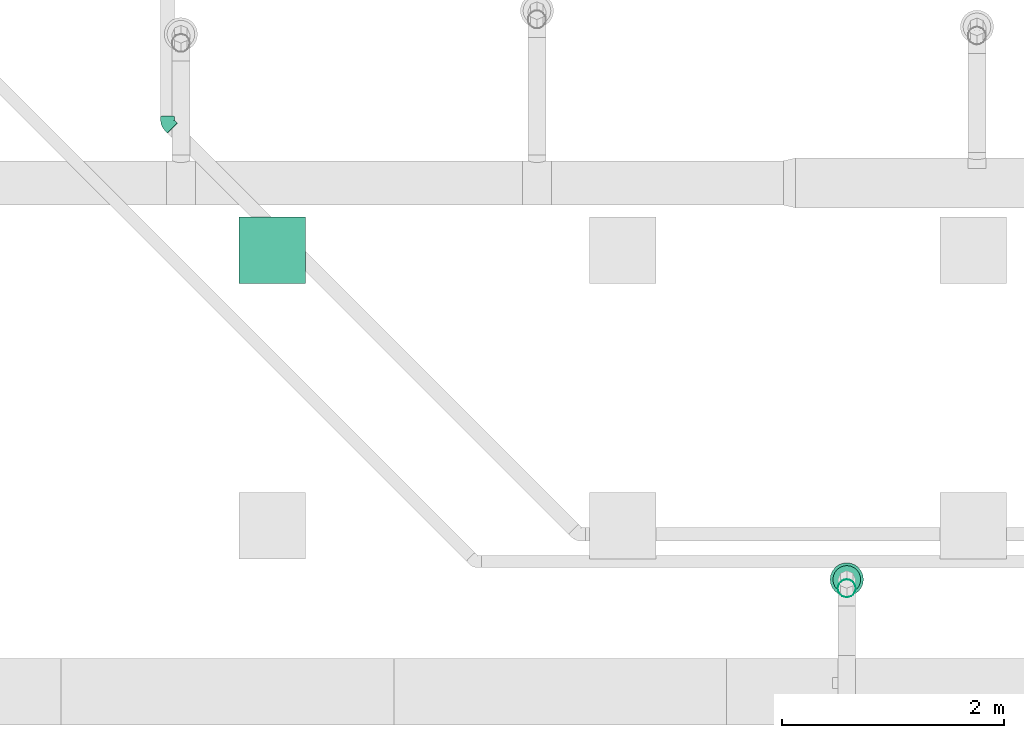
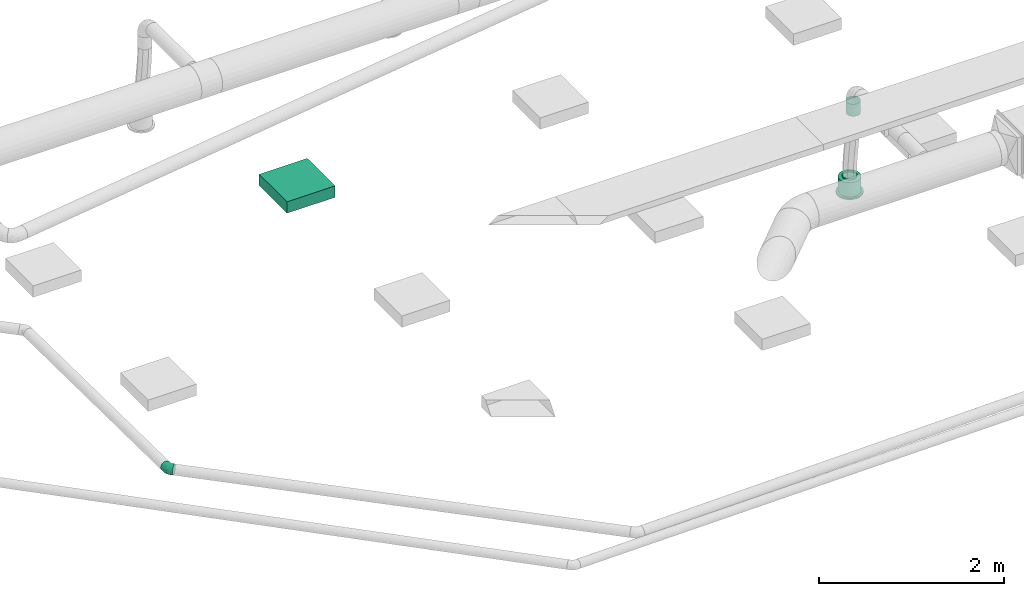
# One storey, part 150 of 374: 1 distribution element, 1 flow fitting, 1 flow segment, 1 flow terminal.
"""IFC2X3 building model written with IfcOpenShell, lengths in metres."""

from ifc_helpers import new_model, si_unit, direction, frame, frame_2d, origin, place, context, subcontext, project, spatial, rectangle, extrude, open_shell, surface_model, source, transform, mapped, element, save


model = new_model("IFC2X3")

# Units and contexts
model_context = context("Model", 3, precision=1e-05, world=origin(), true_north=direction((-0.4480736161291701, 0.8939966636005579)))
body_context = subcontext(model_context, "Body", "Model", "MODEL_VIEW")
ifc_project = project(units=[si_unit("LENGTHUNIT", "METRE"), si_unit("AREAUNIT", "SQUARE_METRE"), si_unit("VOLUMEUNIT", "CUBIC_METRE"), si_unit("PLANEANGLEUNIT", "RADIAN"), si_unit("THERMODYNAMICTEMPERATUREUNIT", "KELVIN"), si_unit("MASSUNIT", "GRAM", prefix="KILO"), si_unit("TIMEUNIT", "SECOND")], contexts=[model_context])

# Site, building, storey
site_placement = place(None, origin())
site = spatial("IfcSite", under=ifc_project, at=site_placement, Name="Site 1", CompositionType="ELEMENT")
building_placement = place(site_placement, origin())
building = spatial("IfcBuilding", under=site, at=building_placement, Name="Undefined", CompositionType="ELEMENT")
storey_placement = place(building_placement, origin())
storey = spatial("IfcBuildingStorey", under=building, at=storey_placement, Name="Rez de chauss\x8ee", CompositionType="ELEMENT", Elevation=0.0)

# Flow terminal
shared_shape_1 = source(origin(), body_context, "Body", "SurfaceModel", [
    surface_model("IfcFaceBasedSurfaceModel", [(0.0, 0.0, 0.0), (0.03915785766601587, 0.0, 0.0), (0.03915785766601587, 0.020000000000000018, 0.0), (3.552713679e-15, 0.020000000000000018, 0.0), (0.07698144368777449, 0.0, -0.010134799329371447), (0.07698144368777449, 0.020000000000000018, -0.010134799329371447), (0.11089314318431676, 0.0, -0.02971372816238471), (0.11089314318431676, 0.020000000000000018, -0.02971372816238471), (0.13858192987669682, 0.0, -0.05740251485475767), (0.13858192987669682, 0.020000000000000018, -0.05740251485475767), (0.15816085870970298, 0.0, -0.09131421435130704), (0.15816085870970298, 0.020000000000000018, -0.09131421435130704), (0.16829565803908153, 0.0, -0.12913780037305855), (0.16829565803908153, 0.020000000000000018, -0.12913780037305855), (0.16829565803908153, 0.0, -0.16829565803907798), (0.16829565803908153, 0.020000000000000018, -0.16829565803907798), (0.15816085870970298, 0.0, -0.20611924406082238), (0.15816085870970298, 0.020000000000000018, -0.20611924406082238), (0.13858192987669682, 0.0, -0.24003094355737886), (0.13858192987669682, 0.020000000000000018, -0.24003094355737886), (0.11089314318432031, 0.0, -0.2677197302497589), (0.11089314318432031, 0.020000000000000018, -0.2677197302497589), (0.07698144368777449, 0.0, -0.2872986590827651), (0.07698144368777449, 0.020000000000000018, -0.2872986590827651), (0.039157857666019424, 0.0, -0.29743345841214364), (0.039157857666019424, 0.020000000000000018, -0.29743345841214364), (3.552713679e-15, 0.0, -0.29743345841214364), (3.552713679e-15, 0.020000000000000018, -0.29743345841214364), (-0.03782358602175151, 0.0, -0.2872986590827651), (-0.03782358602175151, 0.020000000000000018, -0.2872986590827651), (-0.07173528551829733, 0.0, -0.2677197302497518), (-0.07173528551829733, 0.020000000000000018, -0.2677197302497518), (-0.0994240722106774, 0.0, -0.24003094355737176), (-0.0994240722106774, 0.020000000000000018, -0.24003094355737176), (-0.11900300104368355, 0.0, -0.2061192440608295), (-0.11900300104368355, 0.020000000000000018, -0.2061192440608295), (-0.1291378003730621, 0.0, -0.16829565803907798), (-0.1291378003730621, 0.020000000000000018, -0.16829565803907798), (-0.1291378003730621, 0.0, -0.12913780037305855), (-0.1291378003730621, 0.020000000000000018, -0.12913780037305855), (-0.11900300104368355, 0.0, -0.09131421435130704), (-0.11900300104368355, 0.020000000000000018, -0.09131421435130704), (-0.0994240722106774, 0.0, -0.05740251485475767), (-0.0994240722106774, 0.020000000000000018, -0.05740251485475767), (-0.07173528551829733, 0.0, -0.029713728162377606), (-0.07173528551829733, 0.020000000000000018, -0.029713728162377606), (-0.03782358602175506, 0.0, -0.010134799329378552), (-0.03782358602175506, 0.020000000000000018, -0.010134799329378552), (0.019578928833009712, 0.0, -0.14871672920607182), (0.019578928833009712, 0.020000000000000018, -0.14871672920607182), (0.003263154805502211, 0.020000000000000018, -0.02478612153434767), (0.035894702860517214, 0.020000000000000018, -0.02478612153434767), (0.035894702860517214, 0.20999999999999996, -0.02478612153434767), (0.003263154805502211, 0.20999999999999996, -0.02478612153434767), (0.06741435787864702, 0.020000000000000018, -0.033231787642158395), (0.06741435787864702, 0.20999999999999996, -0.033231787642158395), (0.0956741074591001, 0.020000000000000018, -0.04954756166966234), (0.0956741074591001, 0.20999999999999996, -0.04954756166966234), (0.11874809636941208, 0.020000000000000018, -0.07262155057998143), (0.11874809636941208, 0.20999999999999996, -0.07262155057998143), (0.13506387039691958, 0.020000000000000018, -0.10088130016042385), (0.13506387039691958, 0.20999999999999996, -0.10088130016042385), (0.1435095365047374, 0.020000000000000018, -0.13240095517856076), (0.1435095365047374, 0.20999999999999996, -0.13240095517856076), (0.1435095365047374, 0.020000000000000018, -0.16503250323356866), (0.1435095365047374, 0.20999999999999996, -0.16503250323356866), (0.13506387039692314, 0.020000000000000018, -0.19655215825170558), (0.13506387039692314, 0.20999999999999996, -0.19655215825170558), (0.11874809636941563, 0.020000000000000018, -0.2248119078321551), (0.11874809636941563, 0.20999999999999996, -0.2248119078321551), (0.09567410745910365, 0.020000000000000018, -0.24788589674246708), (0.09567410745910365, 0.20999999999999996, -0.24788589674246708), (0.06741435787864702, 0.020000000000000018, -0.26420167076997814), (0.06741435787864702, 0.20999999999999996, -0.26420167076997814), (0.035894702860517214, 0.020000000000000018, -0.27264733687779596), (0.035894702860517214, 0.20999999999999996, -0.27264733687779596), (0.0032631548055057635, 0.020000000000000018, -0.27264733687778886), (0.0032631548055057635, 0.20999999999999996, -0.27264733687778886), (-0.028256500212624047, 0.020000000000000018, -0.26420167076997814), (-0.028256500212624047, 0.20999999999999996, -0.26420167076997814), (-0.05651624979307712, 0.020000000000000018, -0.2478858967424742), (-0.05651624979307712, 0.20999999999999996, -0.2478858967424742), (-0.07959023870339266, 0.020000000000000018, -0.2248119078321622), (-0.07959023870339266, 0.20999999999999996, -0.2248119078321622), (-0.09590601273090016, 0.020000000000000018, -0.19655215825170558), (-0.09590601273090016, 0.20999999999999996, -0.19655215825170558), (-0.10435167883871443, 0.020000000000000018, -0.16503250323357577), (-0.10435167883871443, 0.20999999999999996, -0.16503250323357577), (-0.10435167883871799, 0.020000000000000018, -0.13240095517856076), (-0.10435167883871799, 0.20999999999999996, -0.13240095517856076), (-0.09590601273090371, 0.020000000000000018, -0.10088130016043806), (-0.09590601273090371, 0.20999999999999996, -0.10088130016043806), (-0.07959023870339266, 0.020000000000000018, -0.07262155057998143), (-0.07959023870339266, 0.20999999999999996, -0.07262155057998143), (-0.056516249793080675, 0.020000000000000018, -0.04954756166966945), (-0.056516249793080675, 0.20999999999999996, -0.04954756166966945), (-0.028256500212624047, 0.020000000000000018, -0.033231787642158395), (-0.028256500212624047, 0.20999999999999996, -0.033231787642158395), (0.019578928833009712, 0.20999999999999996, -0.14871672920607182), (0.009136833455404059, 0.20999999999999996, -0.06940114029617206), (0.030021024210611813, 0.20999999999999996, -0.06940114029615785), (0.030021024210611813, 0.22999999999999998, -0.06940114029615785), (0.009136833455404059, 0.22999999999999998, -0.06940114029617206), (0.05019360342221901, 0.20999999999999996, -0.07480636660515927), (0.05019360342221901, 0.22999999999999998, -0.07480636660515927), (0.06827984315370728, 0.20999999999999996, -0.08524846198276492), (0.06827984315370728, 0.22999999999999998, -0.08524846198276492), (0.0830471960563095, 0.20999999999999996, -0.10001581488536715), (0.0830471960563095, 0.22999999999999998, -0.10001581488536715), (0.0934892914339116, 0.20999999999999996, -0.11810205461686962), (0.0934892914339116, 0.22999999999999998, -0.11810205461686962), (0.09889451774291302, 0.20999999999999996, -0.13827463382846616), (0.09889451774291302, 0.22999999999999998, -0.13827463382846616), (0.09889451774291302, 0.20999999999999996, -0.15915882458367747), (0.09889451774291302, 0.22999999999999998, -0.15915882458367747), (0.09348929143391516, 0.20999999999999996, -0.179331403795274), (0.09348929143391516, 0.22999999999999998, -0.179331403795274), (0.0830471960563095, 0.20999999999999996, -0.19741764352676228), (0.0830471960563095, 0.22999999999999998, -0.19741764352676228), (0.06827984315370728, 0.20999999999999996, -0.2121849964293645), (0.06827984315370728, 0.22999999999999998, -0.2121849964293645), (0.05019360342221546, 0.20999999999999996, -0.22262709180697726), (0.05019360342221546, 0.22999999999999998, -0.22262709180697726), (0.030021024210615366, 0.20999999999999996, -0.22803231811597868), (0.030021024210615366, 0.22999999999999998, -0.22803231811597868), (0.009136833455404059, 0.20999999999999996, -0.22803231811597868), (0.009136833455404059, 0.22999999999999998, -0.22803231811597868), (-0.011035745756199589, 0.20999999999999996, -0.22262709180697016), (-0.011035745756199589, 0.22999999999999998, -0.22262709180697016), (-0.0291219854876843, 0.20999999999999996, -0.2121849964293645), (-0.0291219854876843, 0.22999999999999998, -0.2121849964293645), (-0.043889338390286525, 0.20999999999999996, -0.19741764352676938), (-0.043889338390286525, 0.22999999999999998, -0.19741764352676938), (-0.05433143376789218, 0.20999999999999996, -0.17933140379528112), (-0.05433143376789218, 0.22999999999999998, -0.17933140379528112), (-0.05973666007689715, 0.20999999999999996, -0.15915882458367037), (-0.05973666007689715, 0.22999999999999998, -0.15915882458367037), (-0.0597366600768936, 0.20999999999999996, -0.13827463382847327), (-0.0597366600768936, 0.22999999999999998, -0.13827463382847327), (-0.05433143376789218, 0.20999999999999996, -0.11810205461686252), (-0.05433143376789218, 0.22999999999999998, -0.11810205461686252), (-0.043889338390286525, 0.20999999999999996, -0.10001581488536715), (-0.043889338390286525, 0.22999999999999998, -0.10001581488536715), (-0.02912198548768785, 0.20999999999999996, -0.08524846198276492), (-0.02912198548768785, 0.22999999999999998, -0.08524846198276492), (-0.011035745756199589, 0.20999999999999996, -0.07480636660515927), (-0.011035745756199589, 0.22999999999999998, -0.07480636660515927)], [open_shell([[[0, 1, 2, 3]], [[1, 4, 5, 2]], [[4, 6, 7, 5]], [[6, 8, 9, 7]], [[8, 10, 11, 9]], [[10, 12, 13, 11]], [[12, 14, 15, 13]], [[14, 16, 17, 15]], [[16, 18, 19, 17]], [[18, 20, 21, 19]], [[20, 22, 23, 21]], [[22, 24, 25, 23]], [[24, 26, 27, 25]], [[26, 28, 29, 27]], [[28, 30, 31, 29]], [[30, 32, 33, 31]], [[32, 34, 35, 33]], [[34, 36, 37, 35]], [[36, 38, 39, 37]], [[38, 40, 41, 39]], [[40, 42, 43, 41]], [[42, 44, 45, 43]], [[44, 46, 47, 45]], [[46, 0, 3, 47]], [[48, 1, 0]], [[48, 4, 1]], [[48, 6, 4]], [[48, 8, 6]], [[48, 10, 8]], [[48, 12, 10]], [[48, 14, 12]], [[48, 16, 14]], [[48, 18, 16]], [[48, 20, 18]], [[48, 22, 20]], [[48, 24, 22]], [[48, 26, 24]], [[48, 28, 26]], [[48, 30, 28]], [[48, 32, 30]], [[48, 34, 32]], [[48, 36, 34]], [[48, 38, 36]], [[48, 40, 38]], [[48, 42, 40]], [[48, 44, 42]], [[48, 46, 44]], [[48, 0, 46]], [[49, 47, 3]], [[49, 45, 47]], [[49, 43, 45]], [[49, 41, 43]], [[49, 39, 41]], [[49, 37, 39]], [[49, 35, 37]], [[49, 33, 35]], [[49, 31, 33]], [[49, 29, 31]], [[49, 27, 29]], [[49, 25, 27]], [[49, 23, 25]], [[49, 21, 23]], [[49, 19, 21]], [[49, 17, 19]], [[49, 15, 17]], [[49, 13, 15]], [[49, 11, 13]], [[49, 9, 11]], [[49, 7, 9]], [[49, 5, 7]], [[49, 2, 5]], [[49, 3, 2]], [[50, 51, 52, 53]], [[51, 54, 55, 52]], [[54, 56, 57, 55]], [[56, 58, 59, 57]], [[58, 60, 61, 59]], [[60, 62, 63, 61]], [[62, 64, 65, 63]], [[64, 66, 67, 65]], [[66, 68, 69, 67]], [[68, 70, 71, 69]], [[70, 72, 73, 71]], [[72, 74, 75, 73]], [[74, 76, 77, 75]], [[76, 78, 79, 77]], [[78, 80, 81, 79]], [[80, 82, 83, 81]], [[82, 84, 85, 83]], [[84, 86, 87, 85]], [[86, 88, 89, 87]], [[88, 90, 91, 89]], [[90, 92, 93, 91]], [[92, 94, 95, 93]], [[94, 96, 97, 95]], [[96, 50, 53, 97]], [[49, 51, 50]], [[49, 54, 51]], [[49, 56, 54]], [[49, 58, 56]], [[49, 60, 58]], [[49, 62, 60]], [[49, 64, 62]], [[49, 66, 64]], [[49, 68, 66]], [[49, 70, 68]], [[49, 72, 70]], [[49, 74, 72]], [[49, 76, 74]], [[49, 78, 76]], [[49, 80, 78]], [[49, 82, 80]], [[49, 84, 82]], [[49, 86, 84]], [[49, 88, 86]], [[49, 90, 88]], [[49, 92, 90]], [[49, 94, 92]], [[49, 96, 94]], [[49, 50, 96]], [[98, 97, 53]], [[98, 95, 97]], [[98, 93, 95]], [[98, 91, 93]], [[98, 89, 91]], [[98, 87, 89]], [[98, 85, 87]], [[98, 83, 85]], [[98, 81, 83]], [[98, 79, 81]], [[98, 77, 79]], [[98, 75, 77]], [[98, 73, 75]], [[98, 71, 73]], [[98, 69, 71]], [[98, 67, 69]], [[98, 65, 67]], [[98, 63, 65]], [[98, 61, 63]], [[98, 59, 61]], [[98, 57, 59]], [[98, 55, 57]], [[98, 52, 55]], [[98, 53, 52]], [[99, 100, 101, 102]], [[100, 103, 104, 101]], [[103, 105, 106, 104]], [[105, 107, 108, 106]], [[107, 109, 110, 108]], [[109, 111, 112, 110]], [[111, 113, 114, 112]], [[113, 115, 116, 114]], [[115, 117, 118, 116]], [[117, 119, 120, 118]], [[119, 121, 122, 120]], [[121, 123, 124, 122]], [[123, 125, 126, 124]], [[125, 127, 128, 126]], [[127, 129, 130, 128]], [[129, 131, 132, 130]], [[131, 133, 134, 132]], [[133, 135, 136, 134]], [[135, 137, 138, 136]], [[137, 139, 140, 138]], [[139, 141, 142, 140]], [[141, 143, 144, 142]], [[143, 145, 146, 144]], [[145, 99, 102, 146]]])]),
])
flow_terminal_placement = place(storey_placement, origin())
element("IfcFlowTerminal", 1, at=flow_terminal_placement, inside=storey, Name="Air diffuseur - bouche", ObjectType="Air diffuseur - bouche", context=body_context, shape_type="MappedRepresentation", body=[
    mapped(shared_shape_1, transform((44.292700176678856, 16.804235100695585, 2.38), x_axis=(0.9914448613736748, 0.13052619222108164, 0.0), y_axis=(0.0, 0.0, 1.0), z_axis=(0.13052619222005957, -0.9914448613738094, 0.0))),
])

# Flow fitting
shared_shape_2 = source(origin(), body_context, "Body", "SurfaceModel", [
    surface_model("IfcFaceBasedSurfaceModel", [(0.0, 0.0163157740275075, 0.0), (0.0, 0.0, 0.0), (0.03640000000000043, 0.0, 0.0), (0.03640000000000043, 0.01631577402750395, -8.8817842e-16), (0.0, -0.015759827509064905, -0.004222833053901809), (0.03640000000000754, -0.01575982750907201, -0.00422283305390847), (0.0, -0.029889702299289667, -0.012380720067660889), (0.03640000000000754, -0.02988970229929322, -0.012380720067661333), (0.0, -0.04142669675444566, -0.02391771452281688), (0.03640000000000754, -0.04142669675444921, -0.023917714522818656), (0.0, -0.04958458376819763, -0.038047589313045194), (0.03640000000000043, -0.04958458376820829, -0.038047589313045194), (0.0, -0.053807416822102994, -0.053807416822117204), (0.03640000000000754, -0.053807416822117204, -0.05380741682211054), (0.0, -0.053807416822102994, -0.07012319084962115), (0.03639999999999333, -0.053807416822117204, -0.07012319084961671), (0.0, -0.04958458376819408, -0.08588301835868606), (0.03640000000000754, -0.04958458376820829, -0.08588301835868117), (0.0, -0.04142669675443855, -0.10001289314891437), (0.03640000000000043, -0.041426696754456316, -0.1000128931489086), (0.0, -0.02988970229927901, -0.11154988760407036), (0.03640000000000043, -0.02988970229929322, -0.11154988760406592), (0.0, -0.015759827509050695, -0.11970777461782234), (0.03640000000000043, -0.015759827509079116, -0.11970777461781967), (0.0, 1.4210854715e-14, -0.12393060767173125), (0.03640000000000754, -1.4210854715e-14, -0.12393060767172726), (0.0, 0.016315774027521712, -0.12393060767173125), (0.03640000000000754, 0.01631577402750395, -0.12393060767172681), (0.0, 0.03207560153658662, -0.11970777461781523), (0.03640000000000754, 0.032075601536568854, -0.11970777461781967), (0.0, 0.04620547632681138, -0.11154988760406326), (0.03640000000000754, 0.04620547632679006, -0.11154988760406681), (0.0, 0.05774247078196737, -0.10001289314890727), (0.03640000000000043, 0.05774247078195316, -0.10001289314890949), (0.0, 0.06590035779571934, -0.08588301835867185), (0.03640000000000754, 0.06590035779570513, -0.08588301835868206), (0.0, 0.0701231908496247, -0.07012319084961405), (0.03640000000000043, 0.07012319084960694, -0.07012319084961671), (0.0, 0.0701231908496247, -0.05380741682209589), (0.03640000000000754, 0.07012319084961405, -0.05380741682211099), (0.0, 0.06590035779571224, -0.03804758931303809), (0.03640000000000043, 0.06590035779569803, -0.03804758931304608), (0.0, 0.05774247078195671, -0.023917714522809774), (0.03640000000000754, 0.057742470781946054, -0.0239177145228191), (0.0, 0.04620547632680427, -0.012380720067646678), (0.03640000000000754, 0.04620547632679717, -0.012380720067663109), (0.0, 0.03207560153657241, -0.004222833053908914), (0.03640000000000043, 0.032075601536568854, -0.00422283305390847), (0.06832402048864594, -0.04964138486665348, -0.07067165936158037), (0.06887509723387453, -0.04956947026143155, -0.054365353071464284), (0.09807338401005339, -0.037427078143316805, -0.0722797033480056), (0.09913799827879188, -0.037144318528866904, -0.056001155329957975), (0.12362157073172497, -0.0179965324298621, -0.07483778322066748), (0.12512720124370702, -0.017378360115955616, -0.05860339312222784), (0.06670834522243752, -0.04562939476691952, -0.08640372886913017), (0.09495209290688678, -0.034033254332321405, -0.08793038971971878), (0.11920728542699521, -0.01558608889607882, -0.09035900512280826), (0.06413817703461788, -0.037806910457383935, -0.100489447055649), (0.08998683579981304, -0.027194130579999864, -0.10188664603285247), (0.11218517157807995, -0.010311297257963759, -0.10410931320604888), (0.060788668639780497, -0.026707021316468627, -0.11196889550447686), (0.08351598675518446, -0.01737578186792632, -0.11319737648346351), (0.10303377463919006, -0.0025316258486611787, -0.11515164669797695), (0.05688808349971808, -0.013086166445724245, -0.12005976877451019), (0.07598052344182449, -0.00524731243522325, -0.1210917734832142), (0.09237674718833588, 0.00722275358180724, -0.1227334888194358), (0.05270224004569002, 0.0021274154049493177, -0.12421068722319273), (0.06789397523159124, 0.008364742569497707, -0.12503184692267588), (0.08094034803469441, 0.018287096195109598, -0.1263381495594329), (0.04851639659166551, 0.017896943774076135, -0.1241387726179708), (0.05980742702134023, 0.02253274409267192, -0.12474908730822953), (0.06950394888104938, 0.029907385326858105, -0.12571997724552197), (0.044615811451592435, 0.03314775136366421, -0.11984892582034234), (0.05227196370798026, 0.036291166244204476, -0.12026276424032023), (0.058846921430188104, 0.04129171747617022, -0.12092109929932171), (0.04126630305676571, 0.04684052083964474, -0.11163349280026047), (0.045801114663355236, 0.04870239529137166, -0.11187861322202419), (0.04969552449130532, 0.05166426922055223, -0.11226855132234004), (0.038696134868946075, 0.05804211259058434, -0.10005234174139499), (0.040835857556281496, 0.058920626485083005, -0.10016800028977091), (0.04267341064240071, 0.060318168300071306, -0.10035199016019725), (0.0370804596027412, 0.06598915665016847, -0.08589470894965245), (0.03771456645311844, 0.06624950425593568, -0.08592898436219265), (0.038259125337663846, 0.06666366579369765, -0.08598350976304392), (0.03652938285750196, 0.07014007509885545, -0.07012541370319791), (0.03664995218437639, 0.07018957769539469, -0.07013193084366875), (0.0367534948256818, 0.07026832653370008, -0.07014229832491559), (0.037080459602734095, 0.07021198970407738, -0.053819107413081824), (0.03771456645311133, 0.07047233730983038, -0.053853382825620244), (0.038259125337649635, 0.07088649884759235, -0.05390790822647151), (0.038696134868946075, 0.06619999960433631, -0.03808703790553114), (0.040835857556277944, 0.06707851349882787, -0.03820269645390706), (0.04267341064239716, 0.06847605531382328, -0.038386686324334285), (0.04126630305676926, 0.05837751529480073, -0.024001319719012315), (0.04580111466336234, 0.060239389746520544, -0.024246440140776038), (0.04969552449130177, 0.06320126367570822, -0.024636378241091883), (0.04461581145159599, 0.04727762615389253, -0.012521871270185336), (0.05227196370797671, 0.050421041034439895, -0.012935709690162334), (0.058846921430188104, 0.055421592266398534, -0.013594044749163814), (0.04851639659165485, 0.03365677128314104, -0.004430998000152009), (0.05980742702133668, 0.038292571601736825, -0.005041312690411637), (0.06950394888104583, 0.045667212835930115, -0.006012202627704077), (0.05270224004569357, 0.018443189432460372, -0.00028007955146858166), (0.06789397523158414, 0.02468051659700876, -0.0011012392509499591), (0.0809403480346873, 0.03460287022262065, -0.0024075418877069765), (0.056888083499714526, 0.00267366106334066, -0.00035199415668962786), (0.07598052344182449, 0.01051251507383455, -0.0013839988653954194), (0.09237674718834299, 0.02298258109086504, -0.0030257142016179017), (0.06078866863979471, -0.012577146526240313, -0.004641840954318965), (0.08351598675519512, -0.003245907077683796, -0.005870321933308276), (0.10303377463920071, 0.01159824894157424, -0.00782459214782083), (0.06413817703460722, -0.02626991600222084, -0.01285727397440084), (0.08998683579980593, -0.015657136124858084, -0.014254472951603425), (0.1121851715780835, 0.0012256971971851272, -0.01647714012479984), (0.06670834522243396, -0.03747150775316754, -0.02443842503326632), (0.09495209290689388, -0.02587536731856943, -0.025965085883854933), (0.11920728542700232, -0.007428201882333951, -0.028393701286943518), (0.06832402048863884, -0.04541855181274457, -0.03859605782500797), (0.09807338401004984, -0.0332042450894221, -0.0402041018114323), (0.12362157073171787, -0.013773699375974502, -0.04276218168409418), (0.14936452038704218, 0.007517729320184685, -0.07819679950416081), (0.15087015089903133, 0.00813590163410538, -0.06196240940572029), (0.14495023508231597, 0.009928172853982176, -0.09371802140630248), (0.1379281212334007, 0.015202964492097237, -0.1074683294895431), (0.12877672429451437, 0.022982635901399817, -0.11851066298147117), (0.11811969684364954, 0.03273701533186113, -0.12609250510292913), (0.10668329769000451, 0.043801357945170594, -0.12969716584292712), (0.09524689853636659, 0.055421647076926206, -0.12907899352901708), (0.0845898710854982, 0.06680597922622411, -0.12428011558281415), (0.07543847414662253, 0.07717853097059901, -0.1156275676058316), (0.06841636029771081, 0.0858324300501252, -0.10371100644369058), (0.06400207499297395, 0.09217792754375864, -0.08934252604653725), (0.06249644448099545, 0.09578258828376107, -0.07350131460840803), (0.0640020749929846, 0.09640076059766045, -0.05726692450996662), (0.06841636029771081, 0.09399031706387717, -0.04174570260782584), (0.07543847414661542, 0.08871552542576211, -0.027995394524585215), (0.0845898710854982, 0.08093585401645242, -0.016953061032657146), (0.09524689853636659, 0.07118147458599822, -0.009371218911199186), (0.10668329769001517, 0.06011713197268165, -0.005766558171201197), (0.11811969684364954, 0.048496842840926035, -0.006384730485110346), (0.12877672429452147, 0.03711251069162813, -0.011183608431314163), (0.13792812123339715, 0.02673995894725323, -0.019836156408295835), (0.14495023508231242, 0.01808605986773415, -0.03175271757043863), (0.14936452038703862, 0.011740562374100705, -0.04612119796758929)], [open_shell([[[0, 1, 2, 3]], [[1, 4, 5, 2]], [[4, 6, 7, 5]], [[6, 8, 9, 7]], [[8, 10, 11, 9]], [[10, 12, 13, 11]], [[12, 14, 15, 13]], [[14, 16, 17, 15]], [[16, 18, 19, 17]], [[18, 20, 21, 19]], [[20, 22, 23, 21]], [[22, 24, 25, 23]], [[24, 26, 27, 25]], [[26, 28, 29, 27]], [[28, 30, 31, 29]], [[30, 32, 33, 31]], [[32, 34, 35, 33]], [[34, 36, 37, 35]], [[36, 38, 39, 37]], [[38, 40, 41, 39]], [[40, 42, 43, 41]], [[42, 44, 45, 43]], [[44, 46, 47, 45]], [[46, 0, 3, 47]], [[13, 15, 48, 49]], [[49, 48, 50, 51]], [[51, 50, 52, 53]], [[15, 17, 54, 48]], [[48, 54, 55, 50]], [[50, 55, 56, 52]], [[17, 19, 57, 54]], [[54, 57, 58, 55]], [[55, 58, 59, 56]], [[19, 21, 60, 57]], [[57, 60, 61, 58]], [[58, 61, 62, 59]], [[21, 23, 63, 60]], [[60, 63, 64, 61]], [[61, 64, 65, 62]], [[23, 25, 66, 63]], [[63, 66, 67, 64]], [[64, 67, 68, 65]], [[25, 27, 69, 66]], [[66, 69, 70, 67]], [[67, 70, 71, 68]], [[27, 29, 72, 69]], [[69, 72, 73, 70]], [[70, 73, 74, 71]], [[29, 31, 75, 72]], [[72, 75, 76, 73]], [[73, 76, 77, 74]], [[31, 33, 78, 75]], [[75, 78, 79, 76]], [[76, 79, 80, 77]], [[33, 35, 81, 78]], [[78, 81, 82, 79]], [[79, 82, 83, 80]], [[35, 37, 84, 81]], [[81, 84, 85, 82]], [[82, 85, 86, 83]], [[37, 39, 87, 84]], [[84, 87, 88, 85]], [[85, 88, 89, 86]], [[39, 41, 90, 87]], [[87, 90, 91, 88]], [[88, 91, 92, 89]], [[41, 43, 93, 90]], [[90, 93, 94, 91]], [[91, 94, 95, 92]], [[43, 45, 96, 93]], [[93, 96, 97, 94]], [[94, 97, 98, 95]], [[45, 47, 99, 96]], [[96, 99, 100, 97]], [[97, 100, 101, 98]], [[47, 3, 102, 99]], [[99, 102, 103, 100]], [[100, 103, 104, 101]], [[3, 2, 105, 102]], [[102, 105, 106, 103]], [[103, 106, 107, 104]], [[2, 5, 108, 105]], [[105, 108, 109, 106]], [[106, 109, 110, 107]], [[5, 7, 111, 108]], [[108, 111, 112, 109]], [[109, 112, 113, 110]], [[7, 9, 114, 111]], [[111, 114, 115, 112]], [[112, 115, 116, 113]], [[9, 11, 117, 114]], [[114, 117, 118, 115]], [[115, 118, 119, 116]], [[11, 13, 49, 117]], [[117, 49, 51, 118]], [[118, 51, 53, 119]], [[53, 52, 120, 121]], [[52, 56, 122, 120]], [[56, 59, 123, 122]], [[59, 62, 124, 123]], [[62, 65, 125, 124]], [[65, 68, 126, 125]], [[68, 71, 127, 126]], [[71, 74, 128, 127]], [[74, 77, 129, 128]], [[77, 80, 130, 129]], [[80, 83, 131, 130]], [[83, 86, 132, 131]], [[86, 89, 133, 132]], [[89, 92, 134, 133]], [[92, 95, 135, 134]], [[95, 98, 136, 135]], [[98, 101, 137, 136]], [[101, 104, 138, 137]], [[104, 107, 139, 138]], [[107, 110, 140, 139]], [[110, 113, 141, 140]], [[113, 116, 142, 141]], [[116, 119, 143, 142]], [[119, 53, 121, 143]]])]),
])
flow_fitting_placement = place(storey_placement, origin())
element("IfcFlowFitting", 2, at=flow_fitting_placement, inside=storey, Name="PE-HD coude 45°", ObjectType="PE-HD coude 45°", context=body_context, shape_type="MappedRepresentation", body=[
    mapped(shared_shape_2, transform((38.20603889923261, 21.008431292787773, -1.677647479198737), x_axis=(-0.7069654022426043, 0.7069654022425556, -0.01999600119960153), y_axis=(0.7029029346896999, 0.6992118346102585, -0.13050009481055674), z_axis=(-0.07827761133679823, -0.10631429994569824, -0.991246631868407))),
])

# Flow segment
shared_shape_3 = source(origin(), body_context, "Body", "SurfaceModel", [
    surface_model("IfcFaceBasedSurfaceModel", [(0.0, 0.020884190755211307, 0.0), (0.0, 0.0, 0.0), (0.16000000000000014, 0.0, -4.4408921e-16), (0.16000000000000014, 0.0208841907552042, -4.4408921e-16), (0.0, -0.020172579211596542, -0.005405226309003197), (0.16000000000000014, -0.020172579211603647, -0.005405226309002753), (0.0, -0.03825881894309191, -0.015847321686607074), (0.16000000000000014, -0.03825881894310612, -0.015847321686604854), (0.0, -0.05302617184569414, -0.0306146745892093), (0.16000000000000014, -0.05302617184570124, -0.03061467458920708), (0.0, -0.06346826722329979, -0.04870091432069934), (0.16000000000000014, -0.0634682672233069, -0.04870091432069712), (0.0, -0.06887349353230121, -0.06887349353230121), (0.16000000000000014, -0.06887349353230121, -0.06887349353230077), (0.0, -0.06887349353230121, -0.08975768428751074), (0.16000000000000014, -0.06887349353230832, -0.08975768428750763), (0.0, -0.06346826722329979, -0.10993026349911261), (0.16000000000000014, -0.0634682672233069, -0.10993026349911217), (0.0, -0.05302617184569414, -0.12801650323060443), (0.16000000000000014, -0.05302617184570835, -0.1280165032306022), (0.0, -0.038258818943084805, -0.14278385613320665), (0.16000000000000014, -0.03825881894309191, -0.14278385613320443), (0.0, -0.020172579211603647, -0.15322595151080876), (0.16000000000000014, -0.020172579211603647, -0.1532259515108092), (0.0, 7.105427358e-15, -0.15863117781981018), (0.16000000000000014, -7.105427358e-15, -0.15863117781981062), (0.0, 0.020884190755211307, -0.15863117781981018), (0.16000000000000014, 0.0208841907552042, -0.15863117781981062), (0.0, 0.04105676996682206, -0.15322595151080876), (0.16000000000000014, 0.04105676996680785, -0.1532259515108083), (0.0, 0.05914300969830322, -0.1427838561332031), (0.16000000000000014, 0.05914300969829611, -0.14278385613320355), (0.0, 0.07391036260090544, -0.12801650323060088), (0.16000000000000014, 0.07391036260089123, -0.1280165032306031), (0.0, 0.0843524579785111, -0.10993026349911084), (0.16000000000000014, 0.08435245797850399, -0.10993026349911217), (0.0, 0.08975768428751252, -0.08975768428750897), (0.16000000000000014, 0.08975768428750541, -0.08975768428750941), (0.0, 0.08975768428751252, -0.06887349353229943), (0.16000000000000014, 0.08975768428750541, -0.06887349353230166), (0.0, 0.0843524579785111, -0.048700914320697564), (0.16000000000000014, 0.08435245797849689, -0.04870091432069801), (0.0, 0.07391036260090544, -0.030614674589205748), (0.16000000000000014, 0.07391036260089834, -0.03061467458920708), (0.0, 0.05914300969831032, -0.015847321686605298), (0.16000000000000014, 0.05914300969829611, -0.01584732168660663), (0.0, 0.04105676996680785, -0.005405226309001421), (0.16000000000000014, 0.04105676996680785, -0.005405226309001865)], [open_shell([[[0, 1, 2, 3]], [[1, 4, 5, 2]], [[4, 6, 7, 5]], [[6, 8, 9, 7]], [[8, 10, 11, 9]], [[10, 12, 13, 11]], [[12, 14, 15, 13]], [[14, 16, 17, 15]], [[16, 18, 19, 17]], [[18, 20, 21, 19]], [[20, 22, 23, 21]], [[22, 24, 25, 23]], [[24, 26, 27, 25]], [[26, 28, 29, 27]], [[28, 30, 31, 29]], [[30, 32, 33, 31]], [[32, 34, 35, 33]], [[34, 36, 37, 35]], [[36, 38, 39, 37]], [[38, 40, 41, 39]], [[40, 42, 43, 41]], [[42, 44, 45, 43]], [[44, 46, 47, 45]], [[46, 0, 3, 47]]])]),
])
flow_segment_placement = place(storey_placement, origin())
element("IfcFlowSegment", 3, at=flow_segment_placement, inside=storey, Name="Tube", ObjectType="Tube", context=body_context, shape_type="MappedRepresentation", body=[
    mapped(shared_shape_3, transform((44.313405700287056, 16.796961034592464, 3.4800000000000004), x_axis=(0.0, 0.0, 1.0), y_axis=(-0.9914448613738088, -0.13052619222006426, 0.0), z_axis=(0.13052619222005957, -0.9914448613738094, 0.0))),
])

# Distribution element
distribution_element_placement = place(storey_placement, origin())
element("IfcDistributionElement", 4, at=distribution_element_placement, inside=storey, Name="Decken-Rechteckleuchte mit Rahmen AP", ObjectType="Decken-Rechteckleuchte mit Rahmen AP", context=body_context, shape_type="SweptSolid", body=[
    extrude(rectangle(XDim=0.6000000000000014, YDim=0.6000000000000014, at=frame_2d((3.552713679e-15, 0.0), x_axis=(0.0, 1.0))), frame((39.11687539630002, 19.920550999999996, 2.5500000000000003), z_axis=(0.0, 0.0, -1.0), x_axis=(1.0, 0.0, 0.0)), (0.0, 0.0, 1.0), 0.15),
])

save(model, "model.ifc")
